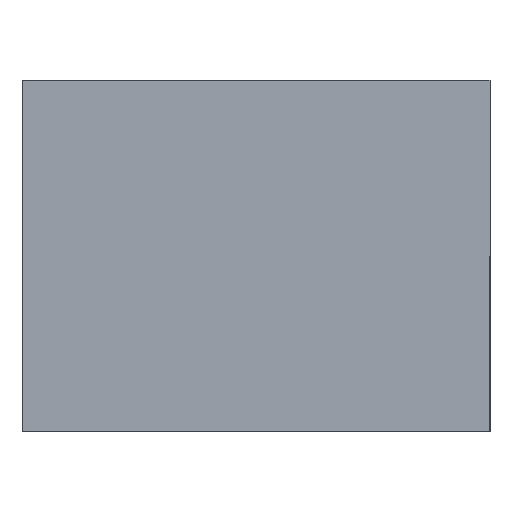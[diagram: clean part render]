
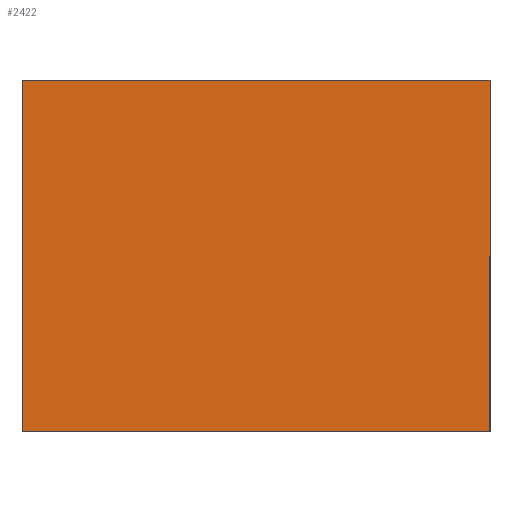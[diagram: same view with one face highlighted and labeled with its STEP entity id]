
A CAD part, front view. The second image highlights one B-rep face of the part: STEP entity #2422.
In plain terms, the highlighted planar face has unit normal (0, -1, 0).
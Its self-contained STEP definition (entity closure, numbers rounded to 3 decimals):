
#3 = EDGE_CURVE ( 'NONE', #1487, #1168, #489, .T. ) ;
#434 = CARTESIAN_POINT ( 'NONE',  ( -50., 0., 37.5 ) ) ;
#461 = VERTEX_POINT ( 'NONE', #770 ) ;
#489 = LINE ( 'NONE', #1051, #2035 ) ;
#537 = ORIENTED_EDGE ( 'NONE', *, *, #3, .F. ) ;
#553 = EDGE_CURVE ( 'NONE', #1168, #590, #2188, .T. ) ;
#590 = VERTEX_POINT ( 'NONE', #434 ) ;
#615 = DIRECTION ( 'NONE',  ( 0., 0., 1. ) ) ;
#706 = CARTESIAN_POINT ( 'NONE',  ( 0., 0., 0. ) ) ;
#770 = CARTESIAN_POINT ( 'NONE',  ( 50., 0., 37.5 ) ) ;
#874 = ORIENTED_EDGE ( 'NONE', *, *, #2093, .F. ) ;
#893 = EDGE_CURVE ( 'NONE', #461, #1487, #2443, .T. ) ;
#913 = DIRECTION ( 'NONE',  ( 0., 1., 0. ) ) ;
#987 = VECTOR ( 'NONE', #2413, 1000. ) ;
#1021 = CARTESIAN_POINT ( 'NONE',  ( -50., 0., 37.5 ) ) ;
#1051 = CARTESIAN_POINT ( 'NONE',  ( -50., 0., -37.5 ) ) ;
#1150 = CARTESIAN_POINT ( 'NONE',  ( 50., 0., -37.5 ) ) ;
#1168 = VERTEX_POINT ( 'NONE', #1592 ) ;
#1192 = VECTOR ( 'NONE', #615, 1000. ) ;
#1240 = CARTESIAN_POINT ( 'NONE',  ( -50., 0., -37.5 ) ) ;
#1247 = DIRECTION ( 'NONE',  ( -1., 0., 0. ) ) ;
#1487 = VERTEX_POINT ( 'NONE', #1490 ) ;
#1490 = CARTESIAN_POINT ( 'NONE',  ( 50., 0., -37.5 ) ) ;
#1553 = AXIS2_PLACEMENT_3D ( 'NONE', #706, #913, #2316 ) ;
#1558 = FACE_OUTER_BOUND ( 'NONE', #2592, .T. ) ;
#1592 = CARTESIAN_POINT ( 'NONE',  ( -50., 0., -37.5 ) ) ;
#1899 = VECTOR ( 'NONE', #2562, 1000. ) ;
#1912 = ORIENTED_EDGE ( 'NONE', *, *, #893, .F. ) ;
#1941 = ORIENTED_EDGE ( 'NONE', *, *, #553, .F. ) ;
#2035 = VECTOR ( 'NONE', #1247, 1000. ) ;
#2093 = EDGE_CURVE ( 'NONE', #590, #461, #2605, .T. ) ;
#2113 = PLANE ( 'NONE',  #1553 ) ;
#2188 = LINE ( 'NONE', #1240, #1192 ) ;
#2316 = DIRECTION ( 'NONE',  ( 0., 0., 1. ) ) ;
#2413 = DIRECTION ( 'NONE',  ( 1., 0., 0. ) ) ;
#2422 = ADVANCED_FACE ( 'NONE', ( #1558 ), #2113, .F. ) ;
#2443 = LINE ( 'NONE', #1150, #1899 ) ;
#2562 = DIRECTION ( 'NONE',  ( 0., 0., -1. ) ) ;
#2592 = EDGE_LOOP ( 'NONE', ( #1912, #874, #1941, #537 ) ) ;
#2605 = LINE ( 'NONE', #1021, #987 ) ;
